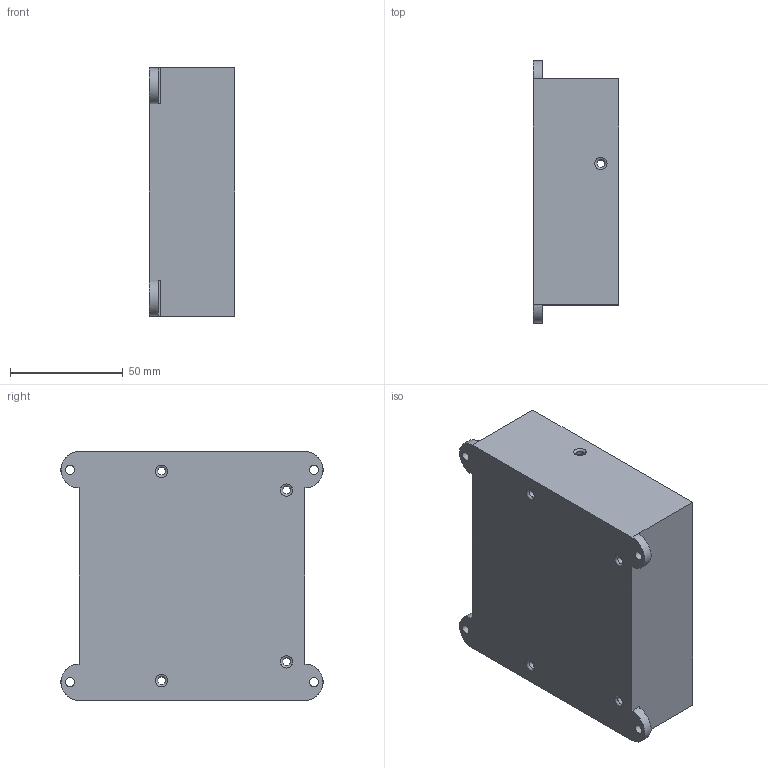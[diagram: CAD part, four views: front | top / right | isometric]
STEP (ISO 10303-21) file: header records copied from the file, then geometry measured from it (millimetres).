
FILE_DESCRIPTION(('STEP AP203'), '1');
FILE_NAME('Êîðïóñ äëÿ áëîê ïèòàíèÿ Aldal (ïëàíøåòíûé, áåç äîï îòâåðñòèé)', '', ('UNSPECIFIED'), ('UNSPECIFIED'), 'C3D Converter', 'C3D Toolkit', '');
FILE_SCHEMA(('CONFIG_CONTROL_DESIGN'));
Length unit declared in the file: millimetre
Bounding box: 38 x 116 x 110 mm (x, y, z)
Volume: 66251.4 mm3; surface area: 50518.7 mm2
Topology: 1 solids, 1 shells, 55 faces, 148 edges, 92 vertices
Faces by surface type: plane 25, cylinder 20, torus 10
Full cylindrical faces by diameter (mm): 2 x2, 3.5 x6, 4 x4
Entity records: 2265 total; most frequent: CARTESIAN_POINT 432, DIRECTION 274, ORIENTED_EDGE 252, EDGE_CURVE 126, AXIS2_PLACEMENT_3D 100, EDGE_LOOP 100, VERTEX_POINT 92, LINE 74
